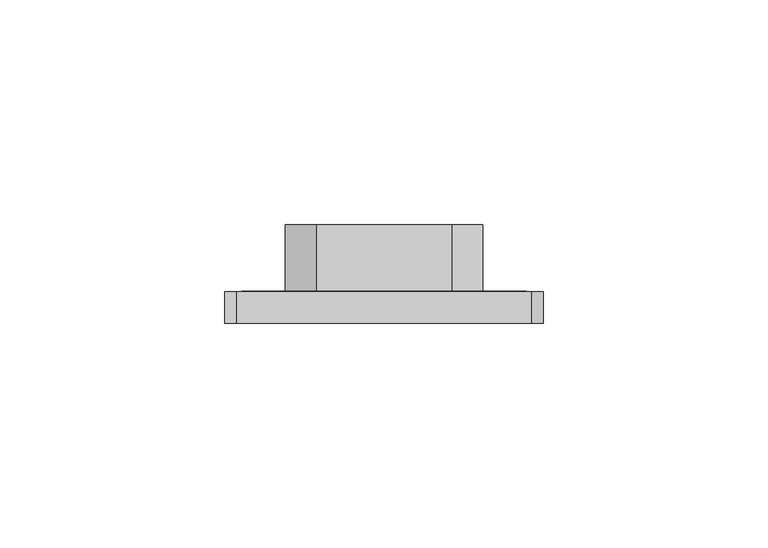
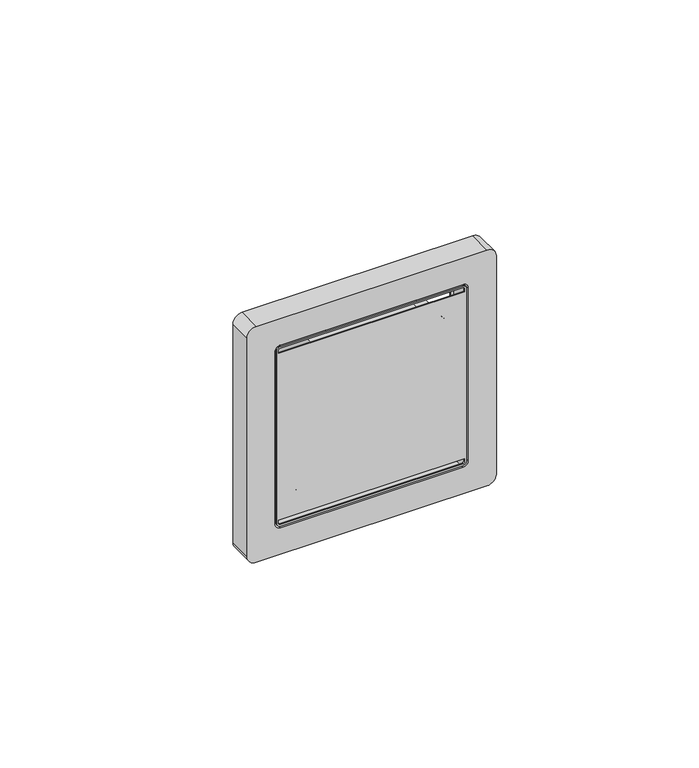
"""IFC4 building model written with IfcOpenShell, lengths in millimetres: proxy geometry, Cala KNX T 101 : Cala KNX T 101, schwarz RAL9005."""

from ifc_helpers import new_model, si_unit, point, frame, frame_2d, origin, place, context, project, spatial, polyline, circle_curve, trimmed, segment, composite_curve, outline, extrude, source, transform, mapped, element, save


def electrical_fixtures_746c57dc(model_context):
    return source(origin(), model_context, "Body", "SweptSolid", [
        extrude(outline(composite_curve([segment(trimmed(circle_curve(frame_2d((68.3993065, -32.8993065)), 2.6006935), [point((71.0, -32.8993065))], [point((68.3993065, -35.5))], False, "CARTESIAN"), True, "CONTINUOUS"), segment(polyline([(68.3993065, -35.5), (2.6006935, -35.5)]), True, "CONTINUOUS"), segment(trimmed(circle_curve(frame_2d((2.6006935, -32.8993065)), 2.6006935), [point((2.6006935, -35.5))], [point((0.0, -32.8993065))], False, "CARTESIAN"), True, "CONTINUOUS"), segment(polyline([(0.0, -32.8993065), (0.0, 32.8993065)]), True, "CONTINUOUS"), segment(trimmed(circle_curve(frame_2d((2.6006935, 32.8993065)), 2.6006935), [point((0.0, 32.8993065))], [point((2.6006935, 35.5))], False, "CARTESIAN"), True, "CONTINUOUS"), segment(polyline([(2.6006935, 35.5), (68.3993065, 35.5)]), True, "CONTINUOUS"), segment(trimmed(circle_curve(frame_2d((68.3993065, 32.8993065)), 2.6006935), [point((68.3993065, 35.5))], [point((71.0, 32.8993065))], False, "CARTESIAN"), True, "CONTINUOUS"), segment(polyline([(71.0, 32.8993065), (71.0, -32.8993065)]), True, "CONTINUOUS")], self_intersect=False), holes=[composite_curve([segment(polyline([(63.0, -25.9768966), (63.0, 25.9768966)]), True, "CONTINUOUS"), segment(trimmed(circle_curve(frame_2d((61.4768966, 25.9768966)), 1.5231034), [point((63.0, 25.9768966))], [point((61.4768966, 27.5))], True, "CARTESIAN"), True, "CONTINUOUS"), segment(polyline([(61.4768966, 27.5), (9.5231034, 27.5)]), True, "CONTINUOUS"), segment(trimmed(circle_curve(frame_2d((9.5231034, 25.9768966)), 1.5231034), [point((9.5231034, 27.5))], [point((8.0, 25.9768966))], True, "CARTESIAN"), True, "CONTINUOUS"), segment(polyline([(8.0, 25.9768966), (8.0, -25.9768966)]), True, "CONTINUOUS"), segment(trimmed(circle_curve(frame_2d((9.5231034, -25.9768966)), 1.5231034), [point((8.0, -25.9768966))], [point((9.5231034, -27.5))], True, "CARTESIAN"), True, "CONTINUOUS"), segment(polyline([(9.5231034, -27.5), (61.4768966, -27.5)]), True, "CONTINUOUS"), segment(trimmed(circle_curve(frame_2d((61.4768966, -25.9768966)), 1.5231034), [point((61.4768966, -27.5))], [point((63.0, -25.9768966))], True, "CARTESIAN"), True, "CONTINUOUS")], self_intersect=False)]), frame((0.0, -7.0, 0.0), z_axis=(0.0, 1.0, 0.0), x_axis=(0.0, 0.0, 1.0)), (0.0, 0.0, 1.0), 7.0),
        extrude(outline(polyline([(67.2, -27.5), (63.0, -31.7), (8.0, -31.7), (3.8, -27.5494118), (3.8, 27.5494118), (8.0, 31.7), (63.0, 31.7), (67.2, 27.5), (67.2, -27.5)]), holes=[polyline([(62.0, -22.0323443), (62.0, 22.0323443), (57.5323443, 26.5), (13.4676557, 26.5), (9.0, 22.0323443), (9.0, -22.0323443), (13.4676557, -26.5), (57.5323443, -26.5), (62.0, -22.0323443)])]), frame((0.0, 0.0, 0.0), z_axis=(0.0, 1.0, 0.0), x_axis=(0.0, 0.0, 1.0)), (0.0, 0.0, 1.0), 0.2),
        extrude(outline(composite_curve([segment(polyline([(20.35, 22.0), (50.65, 22.0)]), True, "CONTINUOUS"), segment(trimmed(circle_curve(frame_2d((50.65, 15.1176557)), 6.8823443), [point((50.65, 22.0))], [point((57.5323443, 15.1176557))], False, "CARTESIAN"), True, "CONTINUOUS"), segment(polyline([(57.5323443, 15.1176557), (57.5323443, -15.1176557)]), True, "CONTINUOUS"), segment(trimmed(circle_curve(frame_2d((50.65, -15.1176557)), 6.8823443), [point((57.5323443, -15.1176557))], [point((50.65, -22.0))], False, "CARTESIAN"), True, "CONTINUOUS"), segment(polyline([(50.65, -22.0), (20.35, -22.0)]), True, "CONTINUOUS"), segment(trimmed(circle_curve(frame_2d((20.35, -15.1176557)), 6.8823443), [point((20.35, -22.0))], [point((13.4676557, -15.1176557))], False, "CARTESIAN"), True, "CONTINUOUS"), segment(polyline([(13.4676557, -15.1176557), (13.4676557, 15.1176557)]), True, "CONTINUOUS"), segment(trimmed(circle_curve(frame_2d((20.35, 15.1176557)), 6.8823443), [point((13.4676557, 15.1176557))], [point((20.35, 22.0))], False, "CARTESIAN"), True, "CONTINUOUS")], self_intersect=False)), frame((0.0, -6.6, 0.0), z_axis=(0.0, 1.0, 0.0), x_axis=(0.0, 0.0, 1.0)), (0.0, 0.0, 1.0), 21.6),
        extrude(outline(composite_curve([segment(polyline([(62.5, 25.9768966), (62.5, -25.9768966)]), True, "CONTINUOUS"), segment(trimmed(circle_curve(frame_2d((61.4768966, -25.9768966)), 1.0231034), [point((62.5, -25.9768966))], [point((61.4768966, -27.0))], False, "CARTESIAN"), True, "CONTINUOUS"), segment(polyline([(61.4768966, -27.0), (9.5231034, -27.0)]), True, "CONTINUOUS"), segment(trimmed(circle_curve(frame_2d((9.5231034, -25.9768966)), 1.0231034), [point((9.5231034, -27.0))], [point((8.5, -25.9768966))], False, "CARTESIAN"), True, "CONTINUOUS"), segment(polyline([(8.5, -25.9768966), (8.5, 25.9768966)]), True, "CONTINUOUS"), segment(trimmed(circle_curve(frame_2d((9.5231034, 25.9768966)), 1.0231034), [point((8.5, 25.9768966))], [point((9.5231034, 27.0))], False, "CARTESIAN"), True, "CONTINUOUS"), segment(polyline([(9.5231034, 27.0), (61.4768966, 27.0)]), True, "CONTINUOUS"), segment(trimmed(circle_curve(frame_2d((61.4768966, 25.9768966)), 1.0231034), [point((61.4768966, 27.0))], [point((62.5, 25.9768966))], False, "CARTESIAN"), True, "CONTINUOUS")], self_intersect=False), holes=[composite_curve([segment(trimmed(circle_curve(frame_2d((61.4768966, -25.9768966)), 0.5231034), [point((61.4768966, -26.5))], [point((62.0, -25.9768966))], True, "CARTESIAN"), True, "CONTINUOUS"), segment(polyline([(62.0, -25.9768966), (62.0, 25.9768966)]), True, "CONTINUOUS"), segment(trimmed(circle_curve(frame_2d((61.4768966, 25.9768966)), 0.5231034), [point((62.0, 25.9768966))], [point((61.4768966, 26.5))], True, "CARTESIAN"), True, "CONTINUOUS"), segment(polyline([(61.4768966, 26.5), (60.65, 26.5), (60.65, -26.5), (61.4768966, -26.5)]), True, "CONTINUOUS")], self_intersect=False), composite_curve([segment(polyline([(9.0, 25.9768966), (9.0, -25.9768966)]), True, "CONTINUOUS"), segment(trimmed(circle_curve(frame_2d((9.5231034, -25.9768966)), 0.5231034), [point((9.0, -25.9768966))], [point((9.5231034, -26.5))], True, "CARTESIAN"), True, "CONTINUOUS"), segment(polyline([(9.5231034, -26.5), (10.35, -26.5), (10.35, 26.5), (9.5231034, 26.5)]), True, "CONTINUOUS"), segment(trimmed(circle_curve(frame_2d((9.5231034, 25.9768966)), 0.5231034), [point((9.5231034, 26.5))], [point((9.0, 25.9768966))], True, "CARTESIAN"), True, "CONTINUOUS")], self_intersect=False)]), frame((0.0, -7.0, 0.0), z_axis=(0.0, 1.0, 0.0), x_axis=(0.0, 0.0, 1.0)), (0.0, 0.0, 1.0), 0.4),
    ])


if __name__ == "__main__":
    model = new_model("IFC4")
    model_context = context("Model", 3, world=origin())
    ifc_project = project(units=[si_unit("LENGTHUNIT", "METRE", prefix="MILLI")], contexts=[model_context])
    site = spatial("IfcSite", under=ifc_project)
    building = spatial("IfcBuilding", under=site)
    placement = place(None, origin())
    electrical_fixtures_shape = electrical_fixtures_746c57dc(model_context)
    element("IfcBuildingElementProxy", 1, Name="Cala KNX T 101 : Cala KNX T 101, schwarz RAL9005", ObjectType="Cala KNX T 101 : Cala KNX T 101, schwarz RAL9005", at=placement, inside=building, context=model_context, shape_type="MappedRepresentation", body=[
        mapped(electrical_fixtures_shape, transform((0.0, 0.0, 0.0), x_axis=(1.0, 0.0, 0.0), y_axis=(0.0, 1.0, 0.0), z_axis=(0.0, 0.0, 1.0))),
    ])
    save(model, "model.ifc")
